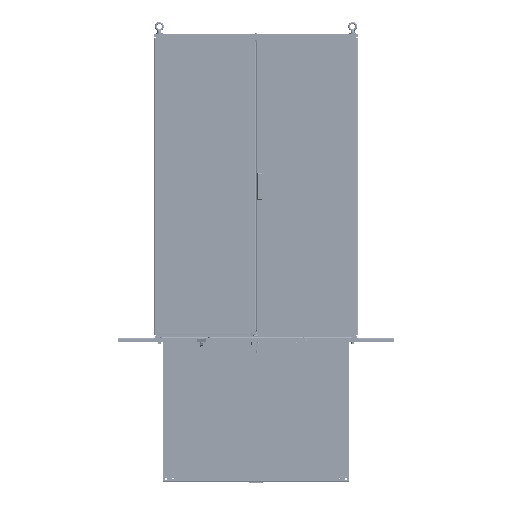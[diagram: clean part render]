
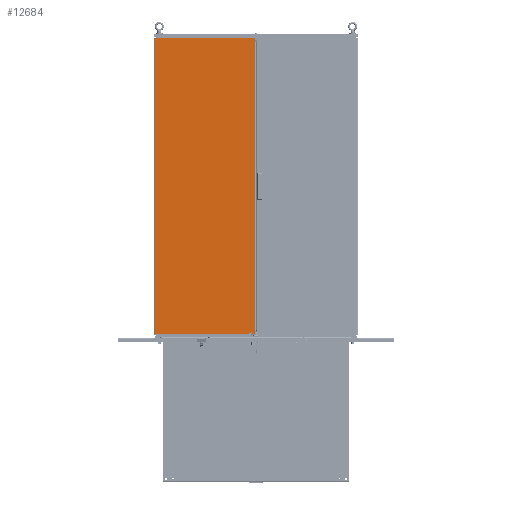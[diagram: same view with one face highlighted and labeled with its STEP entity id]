
A CAD part, front view. The second image highlights one B-rep face of the part: STEP entity #12684.
In plain terms, the highlighted planar face has unit normal (0, -1, 0) as drawn and (0, 0, 1) by its records, which use the part's own axes.
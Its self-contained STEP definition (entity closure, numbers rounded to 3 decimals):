
#12684 = ADVANCED_FACE( '', ( #24938 ), #24939, .T. );
#24938 = FACE_OUTER_BOUND( '', #37190, .T. );
#24939 = PLANE( '', #37191 );
#37190 = EDGE_LOOP( '', ( #53194, #53195, #53196, #53197, #53198, #53199, #53200, #53201, #53202, #53203 ) );
#37191 = AXIS2_PLACEMENT_3D( '', #53204, #53205, #53206 );
#53194 = ORIENTED_EDGE( '', *, *, #86712, .F. );
#53195 = ORIENTED_EDGE( '', *, *, #86713, .T. );
#53196 = ORIENTED_EDGE( '', *, *, #86441, .T. );
#53197 = ORIENTED_EDGE( '', *, *, #86450, .T. );
#53198 = ORIENTED_EDGE( '', *, *, #86411, .T. );
#53199 = ORIENTED_EDGE( '', *, *, #86437, .T. );
#53200 = ORIENTED_EDGE( '', *, *, #86435, .T. );
#53201 = ORIENTED_EDGE( '', *, *, #86714, .F. );
#53202 = ORIENTED_EDGE( '', *, *, #86715, .F. );
#53203 = ORIENTED_EDGE( '', *, *, #86708, .T. );
#53204 = CARTESIAN_POINT( '', ( -297.028, -876.302, 1.829 ) );
#53205 = DIRECTION( '', ( 0., 0., 1. ) );
#53206 = DIRECTION( '', ( 1., 0., 0. ) );
#86411 = EDGE_CURVE( '', #98759, #98768, #98773, .T. );
#86435 = EDGE_CURVE( '', #98809, #98807, #98810, .T. );
#86437 = EDGE_CURVE( '', #98768, #98809, #98812, .T. );
#86441 = EDGE_CURVE( '', #98818, #98815, #98819, .T. );
#86450 = EDGE_CURVE( '', #98815, #98759, #98833, .T. );
#86708 = EDGE_CURVE( '', #99257, #99255, #99258, .T. );
#86712 = EDGE_CURVE( '', #99262, #99255, #99263, .T. );
#86713 = EDGE_CURVE( '', #99262, #98818, #99264, .T. );
#86714 = EDGE_CURVE( '', #99265, #98807, #99266, .T. );
#86715 = EDGE_CURVE( '', #99257, #99265, #99267, .T. );
#98759 = VERTEX_POINT( '', #112995 );
#98768 = VERTEX_POINT( '', #113006 );
#98773 = LINE( '', #113012, #113013 );
#98807 = VERTEX_POINT( '', #113065 );
#98809 = VERTEX_POINT( '', #113068 );
#98810 = LINE( '', #113069, #113070 );
#98812 = LINE( '', #113072, #113073 );
#98815 = VERTEX_POINT( '', #113076 );
#98818 = VERTEX_POINT( '', #113079 );
#98819 = LINE( '', #113080, #113081 );
#98833 = LINE( '', #113102, #113103 );
#99255 = VERTEX_POINT( '', #113759 );
#99257 = VERTEX_POINT( '', #113761 );
#99258 = LINE( '', #113762, #113763 );
#99262 = VERTEX_POINT( '', #113769 );
#99263 = LINE( '', #113770, #113771 );
#99264 = LINE( '', #113772, #113773 );
#99265 = VERTEX_POINT( '', #113774 );
#99266 = LINE( '', #113775, #113776 );
#99267 = LINE( '', #113777, #113778 );
#112995 = CARTESIAN_POINT( '', ( 296.114, -873.559, 1.829 ) );
#113006 = CARTESIAN_POINT( '', ( 296.114, 873.559, 1.829 ) );
#113012 = CARTESIAN_POINT( '', ( 296.114, -873.559, 1.829 ) );
#113013 = VECTOR( '', #135901, 1000. );
#113065 = CARTESIAN_POINT( '', ( -297.028, 850.32, 1.829 ) );
#113068 = CARTESIAN_POINT( '', ( -297.028, 873.559, 1.829 ) );
#113069 = CARTESIAN_POINT( '', ( -297.028, 876.302, 1.829 ) );
#113070 = VECTOR( '', #135933, 1000. );
#113072 = CARTESIAN_POINT( '', ( 298.857, 873.559, 1.829 ) );
#113073 = VECTOR( '', #135937, 1000. );
#113076 = CARTESIAN_POINT( '', ( -297.028, -873.559, 1.829 ) );
#113079 = CARTESIAN_POINT( '', ( -297.028, -850.32, 1.829 ) );
#113080 = CARTESIAN_POINT( '', ( -297.028, 876.302, 1.829 ) );
#113081 = VECTOR( '', #135947, 1000. );
#113102 = CARTESIAN_POINT( '', ( -297.028, -873.559, 1.829 ) );
#113103 = VECTOR( '', #135958, 1000. );
#113759 = CARTESIAN_POINT( '', ( -296.114, -850.318, 1.829 ) );
#113761 = CARTESIAN_POINT( '', ( -296.114, 850.318, 1.829 ) );
#113762 = CARTESIAN_POINT( '', ( -296.114, 850.318, 1.829 ) );
#113763 = VECTOR( '', #136338, 1000. );
#113769 = CARTESIAN_POINT( '', ( -296.114, -850.32, 1.829 ) );
#113770 = CARTESIAN_POINT( '', ( -296.114, 850.32, 1.829 ) );
#113771 = VECTOR( '', #136344, 1000. );
#113772 = CARTESIAN_POINT( '', ( -297.028, -850.32, 1.829 ) );
#113773 = VECTOR( '', #136345, 1000. );
#113774 = CARTESIAN_POINT( '', ( -296.114, 850.32, 1.829 ) );
#113775 = CARTESIAN_POINT( '', ( -297.028, 850.32, 1.829 ) );
#113776 = VECTOR( '', #136346, 1000. );
#113777 = CARTESIAN_POINT( '', ( -296.114, 850.32, 1.829 ) );
#113778 = VECTOR( '', #136347, 1000. );
#135901 = DIRECTION( '', ( 0., 1., 0. ) );
#135933 = DIRECTION( '', ( 0., -1., 0. ) );
#135937 = DIRECTION( '', ( -1., 0., 0. ) );
#135947 = DIRECTION( '', ( 0., -1., 0. ) );
#135958 = DIRECTION( '', ( 1., 0., 0. ) );
#136338 = DIRECTION( '', ( 0., -1., 0. ) );
#136344 = DIRECTION( '', ( 0., 1., 0. ) );
#136345 = DIRECTION( '', ( -1., 0., 0. ) );
#136346 = DIRECTION( '', ( -1., 0., 0. ) );
#136347 = DIRECTION( '', ( 0., 1., 0. ) );
